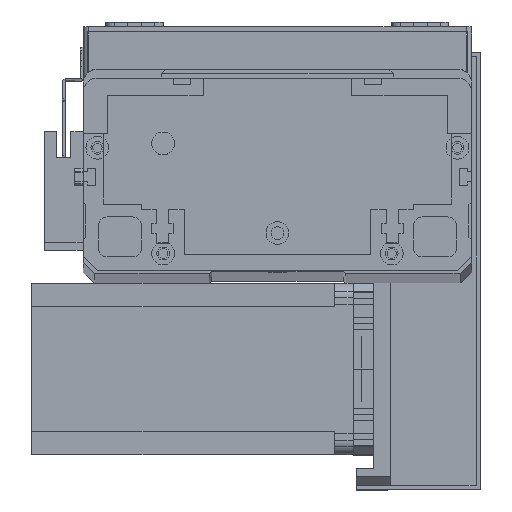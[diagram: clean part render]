
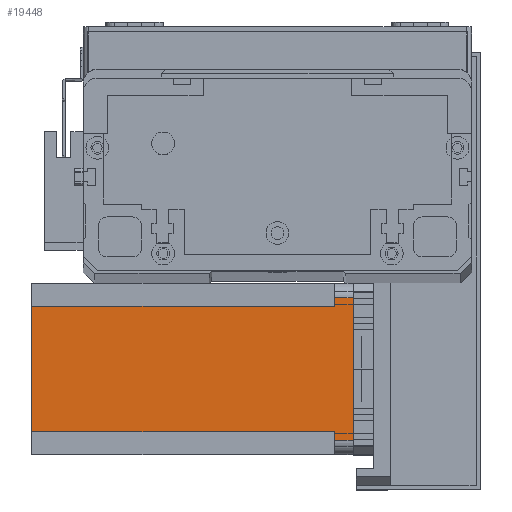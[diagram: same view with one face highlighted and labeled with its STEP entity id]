
A CAD part, top view. The second image highlights one B-rep face of the part: STEP entity #19448.
In plain terms, the highlighted planar face has unit normal (0, 0, 1) as drawn and (0, -1, 0) by its records, which use the part's own axes.
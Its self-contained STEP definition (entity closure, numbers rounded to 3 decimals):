
#847 = VECTOR ( 'NONE', #13500, 1000. ) ;
#1762 = CARTESIAN_POINT ( 'NONE',  ( 5., 0., -112.5 ) ) ;
#1783 = EDGE_CURVE ( 'NONE', #22561, #21155, #18650, .T. ) ;
#1881 = LINE ( 'NONE', #7986, #25897 ) ;
#1947 = VERTEX_POINT ( 'NONE', #20509 ) ;
#2216 = CARTESIAN_POINT ( 'NONE',  ( 8., 0., -112.5 ) ) ;
#2290 = ORIENTED_EDGE ( 'NONE', *, *, #7165, .F. ) ;
#3420 = VECTOR ( 'NONE', #28989, 1000. ) ;
#3669 = CARTESIAN_POINT ( 'NONE',  ( 55., 0., -112.5 ) ) ;
#3842 = CARTESIAN_POINT ( 'NONE',  ( 8., 0., -6.5 ) ) ;
#5208 = EDGE_CURVE ( 'NONE', #22680, #19216, #25735, .T. ) ;
#5528 = CARTESIAN_POINT ( 'NONE',  ( 8., 0., -6.5 ) ) ;
#6282 = CARTESIAN_POINT ( 'NONE',  ( 52., 0., -112.5 ) ) ;
#6327 = DIRECTION ( 'NONE',  ( -1., 0., 0. ) ) ;
#7165 = EDGE_CURVE ( 'NONE', #1947, #12708, #7193, .T. ) ;
#7193 = LINE ( 'NONE', #6282, #847 ) ;
#7663 = LINE ( 'NONE', #1762, #12467 ) ;
#7986 = CARTESIAN_POINT ( 'NONE',  ( 52., 0., -6.5 ) ) ;
#8055 = VECTOR ( 'NONE', #13969, 1000. ) ;
#9549 = LINE ( 'NONE', #23716, #29255 ) ;
#9927 = DIRECTION ( 'NONE',  ( 1., 0., 0. ) ) ;
#9948 = ORIENTED_EDGE ( 'NONE', *, *, #24233, .T. ) ;
#10146 = ORIENTED_EDGE ( 'NONE', *, *, #1783, .F. ) ;
#11362 = EDGE_LOOP ( 'NONE', ( #13476, #14123, #13748, #20705, #23995, #10146, #9948, #2290 ) ) ;
#11534 = PLANE ( 'NONE',  #14195 ) ;
#12467 = VECTOR ( 'NONE', #15914, 1000. ) ;
#12708 = VERTEX_POINT ( 'NONE', #23958 ) ;
#13476 = ORIENTED_EDGE ( 'NONE', *, *, #14294, .T. ) ;
#13500 = DIRECTION ( 'NONE',  ( 0., 0., -1. ) ) ;
#13748 = ORIENTED_EDGE ( 'NONE', *, *, #5208, .F. ) ;
#13969 = DIRECTION ( 'NONE',  ( 1., 0., 0. ) ) ;
#14123 = ORIENTED_EDGE ( 'NONE', *, *, #17982, .T. ) ;
#14163 = CARTESIAN_POINT ( 'NONE',  ( 0., 0., 0. ) ) ;
#14195 = AXIS2_PLACEMENT_3D ( 'NONE', #27526, #29775, #16219 ) ;
#14294 = EDGE_CURVE ( 'NONE', #1947, #24208, #1881, .T. ) ;
#14399 = FACE_OUTER_BOUND ( 'NONE', #11362, .T. ) ;
#15914 = DIRECTION ( 'NONE',  ( 0., 0., -1. ) ) ;
#16219 = DIRECTION ( 'NONE',  ( 0., 0., -1. ) ) ;
#17982 = EDGE_CURVE ( 'NONE', #24208, #19216, #28017, .T. ) ;
#18650 = LINE ( 'NONE', #2216, #23994 ) ;
#19039 = CARTESIAN_POINT ( 'NONE',  ( 55., 0., -6.5 ) ) ;
#19216 = VERTEX_POINT ( 'NONE', #29016 ) ;
#19448 = ADVANCED_FACE ( 'NONE', ( #14399 ), #11534, .T. ) ;
#20248 = CARTESIAN_POINT ( 'NONE',  ( 8., 0., -112.5 ) ) ;
#20509 = CARTESIAN_POINT ( 'NONE',  ( 52., 0., -6.5 ) ) ;
#20705 = ORIENTED_EDGE ( 'NONE', *, *, #24629, .T. ) ;
#21155 = VERTEX_POINT ( 'NONE', #5528 ) ;
#21789 = VECTOR ( 'NONE', #6327, 1000. ) ;
#21902 = DIRECTION ( 'NONE',  ( 1., 0., 0. ) ) ;
#22561 = VERTEX_POINT ( 'NONE', #20248 ) ;
#22680 = VERTEX_POINT ( 'NONE', #22875 ) ;
#22800 = VERTEX_POINT ( 'NONE', #25646 ) ;
#22875 = CARTESIAN_POINT ( 'NONE',  ( 5., 0., 0. ) ) ;
#23716 = CARTESIAN_POINT ( 'NONE',  ( 0., 0., -112.5 ) ) ;
#23958 = CARTESIAN_POINT ( 'NONE',  ( 52., 0., -112.5 ) ) ;
#23994 = VECTOR ( 'NONE', #25023, 1000. ) ;
#23995 = ORIENTED_EDGE ( 'NONE', *, *, #25163, .F. ) ;
#24208 = VERTEX_POINT ( 'NONE', #19039 ) ;
#24233 = EDGE_CURVE ( 'NONE', #22561, #12708, #9549, .T. ) ;
#24629 = EDGE_CURVE ( 'NONE', #22680, #22800, #7663, .T. ) ;
#25023 = DIRECTION ( 'NONE',  ( 0., 0., 1. ) ) ;
#25163 = EDGE_CURVE ( 'NONE', #21155, #22800, #27776, .T. ) ;
#25646 = CARTESIAN_POINT ( 'NONE',  ( 5., 0., -6.5 ) ) ;
#25735 = LINE ( 'NONE', #14163, #8055 ) ;
#25897 = VECTOR ( 'NONE', #21902, 1000. ) ;
#27526 = CARTESIAN_POINT ( 'NONE',  ( 0., 0., -112.5 ) ) ;
#27776 = LINE ( 'NONE', #3842, #21789 ) ;
#28017 = LINE ( 'NONE', #3669, #3420 ) ;
#28989 = DIRECTION ( 'NONE',  ( 0., 0., 1. ) ) ;
#29016 = CARTESIAN_POINT ( 'NONE',  ( 55., 0., 0. ) ) ;
#29255 = VECTOR ( 'NONE', #9927, 1000. ) ;
#29775 = DIRECTION ( 'NONE',  ( 0., -1., 0. ) ) ;
